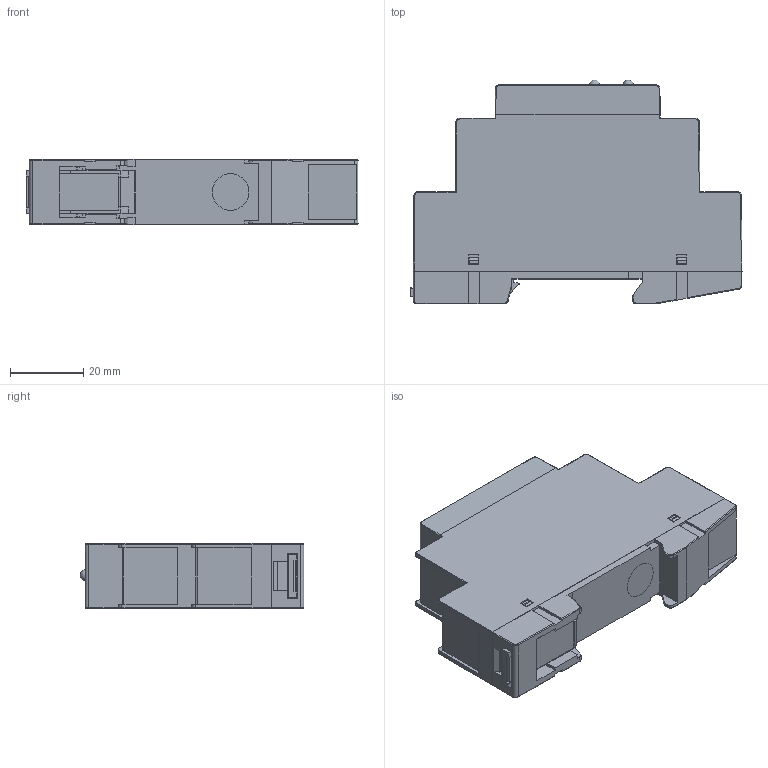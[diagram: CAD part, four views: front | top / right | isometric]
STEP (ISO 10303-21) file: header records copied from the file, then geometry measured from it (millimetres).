
FILE_DESCRIPTION(/* description */ (''),/* implementation_level */ '2;1');
FILE_NAME(/* name */ 'KNX_USB_Interface_312.stp',/* time_stamp */ '2019-11-13T08:11:14+01:00',/* author */ (''),/* organization */ (''),/* preprocessor_version */ 'ST-DEVELOPER v17',/* originating_system */ 'Autodesk Inventor 2018',/* authorisation */ '');
FILE_SCHEMA (('AUTOMOTIVE_DESIGN { 1 0 10303 214 3 1 1 }'));
Length unit declared in the file: millimetre
Products named in the file (1): KNX_USB_Interface_312
Bounding box: 90.7 x 61.15 x 17.8 mm (x, y, z)
Volume: 70584.1 mm3; surface area: 17242.9 mm2
Topology: 1 solids, 2 shells, 859 faces, 2318 edges, 1444 vertices
Faces by surface type: plane 597, cylinder 190, torus 20, bspline 20, sphere 20, cone 12
Full cylindrical faces by diameter (mm): 3 x2, 3.1 x2, 10 x1
Entity records: 27604 total; most frequent: CARTESIAN_POINT 4999, ORIENTED_EDGE 4620, DIRECTION 4390, EDGE_CURVE 2310, LINE 1828, VECTOR 1828, VERTEX_POINT 1444, AXIS2_PLACEMENT_3D 1281
